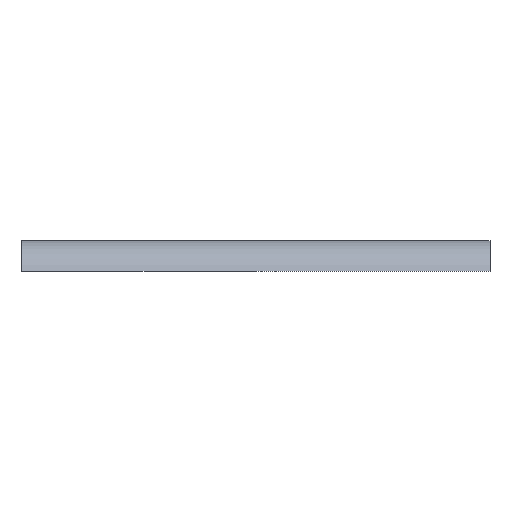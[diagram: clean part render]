
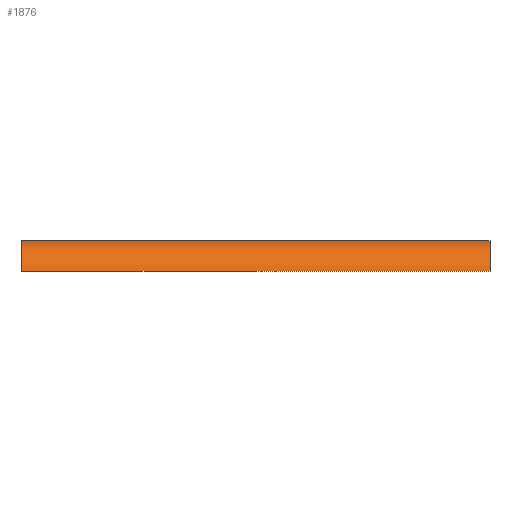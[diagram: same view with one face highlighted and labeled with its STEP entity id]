
A CAD part, front view. The second image highlights one B-rep face of the part: STEP entity #1876.
In plain terms, the highlighted cylindrical face has radius 4 mm (diameter 8 mm), a partial arc.
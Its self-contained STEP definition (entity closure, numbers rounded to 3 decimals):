
#22 = VERTEX_POINT('',#23);
#23 = CARTESIAN_POINT('',(-23.,-63.,12.5));
#32 = PLANE('',#33);
#33 = AXIS2_PLACEMENT_3D('',#34,#35,#36);
#34 = CARTESIAN_POINT('',(-43.,-67.,12.5));
#35 = DIRECTION('',(0.,0.,1.));
#36 = DIRECTION('',(1.,0.,-0.));
#43 = PLANE('',#44);
#44 = AXIS2_PLACEMENT_3D('',#45,#46,#47);
#45 = CARTESIAN_POINT('',(-23.,-68.,9.5));
#46 = DIRECTION('',(1.,0.,0.));
#47 = DIRECTION('',(0.,0.,1.));
#54 = EDGE_CURVE('',#55,#22,#57,.T.);
#55 = VERTEX_POINT('',#56);
#56 = CARTESIAN_POINT('',(23.,-63.,12.5));
#57 = SURFACE_CURVE('',#58,(#62,#69),.PCURVE_S1.);
#58 = LINE('',#59,#60);
#59 = CARTESIAN_POINT('',(25.,-63.,12.5));
#60 = VECTOR('',#61,1.);
#61 = DIRECTION('',(-1.,-0.,-0.));
#62 = PCURVE('',#32,#63);
#63 = DEFINITIONAL_REPRESENTATION('',(#64),#68);
#64 = LINE('',#65,#66);
#65 = CARTESIAN_POINT('',(68.,4.));
#66 = VECTOR('',#67,1.);
#67 = DIRECTION('',(-1.,0.));
#68 = ( GEOMETRIC_REPRESENTATION_CONTEXT(2) 
PARAMETRIC_REPRESENTATION_CONTEXT() REPRESENTATION_CONTEXT('2D SPACE',''
  ) );
#69 = PCURVE('',#70,#75);
#70 = CYLINDRICAL_SURFACE('',#71,4.);
#71 = AXIS2_PLACEMENT_3D('',#72,#73,#74);
#72 = CARTESIAN_POINT('',(25.,-63.,8.5));
#73 = DIRECTION('',(-1.,-0.,-0.));
#74 = DIRECTION('',(0.,-1.,0.));
#75 = DEFINITIONAL_REPRESENTATION('',(#76),#80);
#76 = LINE('',#77,#78);
#77 = CARTESIAN_POINT('',(1.571,0.));
#78 = VECTOR('',#79,1.);
#79 = DIRECTION('',(0.,1.));
#80 = ( GEOMETRIC_REPRESENTATION_CONTEXT(2) 
PARAMETRIC_REPRESENTATION_CONTEXT() REPRESENTATION_CONTEXT('2D SPACE',''
  ) );
#97 = PLANE('',#98);
#98 = AXIS2_PLACEMENT_3D('',#99,#100,#101);
#99 = CARTESIAN_POINT('',(23.,-68.,9.5));
#100 = DIRECTION('',(1.,0.,0.));
#101 = DIRECTION('',(0.,0.,1.));
#1349 = EDGE_CURVE('',#1350,#22,#1352,.T.);
#1350 = VERTEX_POINT('',#1351);
#1351 = CARTESIAN_POINT('',(-23.,-66.873,9.5));
#1352 = SURFACE_CURVE('',#1353,(#1358,#1369),.PCURVE_S1.);
#1353 = CIRCLE('',#1354,4.);
#1354 = AXIS2_PLACEMENT_3D('',#1355,#1356,#1357);
#1355 = CARTESIAN_POINT('',(-23.,-63.,8.5));
#1356 = DIRECTION('',(-1.,-0.,0.));
#1357 = DIRECTION('',(0.,-1.,0.));
#1358 = PCURVE('',#43,#1359);
#1359 = DEFINITIONAL_REPRESENTATION('',(#1360),#1368);
#1360 = ( BOUNDED_CURVE() B_SPLINE_CURVE(2,(#1361,#1362,#1363,#1364,
#1365,#1366,#1367),.UNSPECIFIED.,.T.,.F.) B_SPLINE_CURVE_WITH_KNOTS((1,2
    ,2,2,2,1),(-2.094,0.,2.094,4.189,
6.283,8.378),.UNSPECIFIED.) CURVE() 
GEOMETRIC_REPRESENTATION_ITEM() RATIONAL_B_SPLINE_CURVE((1.,0.5,1.,0.5,
1.,0.5,1.)) REPRESENTATION_ITEM('') );
#1361 = CARTESIAN_POINT('',(-1.,-1.));
#1362 = CARTESIAN_POINT('',(5.928,-1.));
#1363 = CARTESIAN_POINT('',(2.464,-7.));
#1364 = CARTESIAN_POINT('',(-1.,-13.));
#1365 = CARTESIAN_POINT('',(-4.464,-7.));
#1366 = CARTESIAN_POINT('',(-7.928,-1.));
#1367 = CARTESIAN_POINT('',(-1.,-1.));
#1368 = ( GEOMETRIC_REPRESENTATION_CONTEXT(2) 
PARAMETRIC_REPRESENTATION_CONTEXT() REPRESENTATION_CONTEXT('2D SPACE',''
  ) );
#1369 = PCURVE('',#70,#1370);
#1370 = DEFINITIONAL_REPRESENTATION('',(#1371),#1375);
#1371 = LINE('',#1372,#1373);
#1372 = CARTESIAN_POINT('',(0.,48.));
#1373 = VECTOR('',#1374,1.);
#1374 = DIRECTION('',(1.,0.));
#1375 = ( GEOMETRIC_REPRESENTATION_CONTEXT(2) 
PARAMETRIC_REPRESENTATION_CONTEXT() REPRESENTATION_CONTEXT('2D SPACE',''
  ) );
#1393 = PLANE('',#1394);
#1394 = AXIS2_PLACEMENT_3D('',#1395,#1396,#1397);
#1395 = CARTESIAN_POINT('',(-23.,-68.,9.5));
#1396 = DIRECTION('',(0.,0.,1.));
#1397 = DIRECTION('',(1.,0.,0.));
#1876 = ADVANCED_FACE('',(#1877),#70,.T.);
#1877 = FACE_BOUND('',#1878,.T.);
#1878 = EDGE_LOOP('',(#1879,#1907,#1908,#1909));
#1879 = ORIENTED_EDGE('',*,*,#1880,.T.);
#1880 = EDGE_CURVE('',#1881,#55,#1883,.T.);
#1881 = VERTEX_POINT('',#1882);
#1882 = CARTESIAN_POINT('',(23.,-66.873,9.5));
#1883 = SURFACE_CURVE('',#1884,(#1889,#1896),.PCURVE_S1.);
#1884 = CIRCLE('',#1885,4.);
#1885 = AXIS2_PLACEMENT_3D('',#1886,#1887,#1888);
#1886 = CARTESIAN_POINT('',(23.,-63.,8.5));
#1887 = DIRECTION('',(-1.,-0.,0.));
#1888 = DIRECTION('',(0.,-1.,0.));
#1889 = PCURVE('',#70,#1890);
#1890 = DEFINITIONAL_REPRESENTATION('',(#1891),#1895);
#1891 = LINE('',#1892,#1893);
#1892 = CARTESIAN_POINT('',(0.,2.));
#1893 = VECTOR('',#1894,1.);
#1894 = DIRECTION('',(1.,0.));
#1895 = ( GEOMETRIC_REPRESENTATION_CONTEXT(2) 
PARAMETRIC_REPRESENTATION_CONTEXT() REPRESENTATION_CONTEXT('2D SPACE',''
  ) );
#1896 = PCURVE('',#97,#1897);
#1897 = DEFINITIONAL_REPRESENTATION('',(#1898),#1906);
#1898 = ( BOUNDED_CURVE() B_SPLINE_CURVE(2,(#1899,#1900,#1901,#1902,
#1903,#1904,#1905),.UNSPECIFIED.,.T.,.F.) B_SPLINE_CURVE_WITH_KNOTS((1,2
    ,2,2,2,1),(-2.094,0.,2.094,4.189,
6.283,8.378),.UNSPECIFIED.) CURVE() 
GEOMETRIC_REPRESENTATION_ITEM() RATIONAL_B_SPLINE_CURVE((1.,0.5,1.,0.5,
1.,0.5,1.)) REPRESENTATION_ITEM('') );
#1899 = CARTESIAN_POINT('',(-1.,-1.));
#1900 = CARTESIAN_POINT('',(5.928,-1.));
#1901 = CARTESIAN_POINT('',(2.464,-7.));
#1902 = CARTESIAN_POINT('',(-1.,-13.));
#1903 = CARTESIAN_POINT('',(-4.464,-7.));
#1904 = CARTESIAN_POINT('',(-7.928,-1.));
#1905 = CARTESIAN_POINT('',(-1.,-1.));
#1906 = ( GEOMETRIC_REPRESENTATION_CONTEXT(2) 
PARAMETRIC_REPRESENTATION_CONTEXT() REPRESENTATION_CONTEXT('2D SPACE',''
  ) );
#1907 = ORIENTED_EDGE('',*,*,#54,.T.);
#1908 = ORIENTED_EDGE('',*,*,#1349,.F.);
#1909 = ORIENTED_EDGE('',*,*,#1910,.F.);
#1910 = EDGE_CURVE('',#1881,#1350,#1911,.T.);
#1911 = SURFACE_CURVE('',#1912,(#1916,#1922),.PCURVE_S1.);
#1912 = LINE('',#1913,#1914);
#1913 = CARTESIAN_POINT('',(25.,-66.873,9.5));
#1914 = VECTOR('',#1915,1.);
#1915 = DIRECTION('',(-1.,-0.,-0.));
#1916 = PCURVE('',#70,#1917);
#1917 = DEFINITIONAL_REPRESENTATION('',(#1918),#1921);
#1918 = B_SPLINE_CURVE_WITH_KNOTS('',1,(#1919,#1920),.UNSPECIFIED.,.F.,
  .F.,(2,2),(0.,50.),.PIECEWISE_BEZIER_KNOTS.);
#1919 = CARTESIAN_POINT('',(0.253,0.));
#1920 = CARTESIAN_POINT('',(0.253,50.));
#1921 = ( GEOMETRIC_REPRESENTATION_CONTEXT(2) 
PARAMETRIC_REPRESENTATION_CONTEXT() REPRESENTATION_CONTEXT('2D SPACE',''
  ) );
#1922 = PCURVE('',#1393,#1923);
#1923 = DEFINITIONAL_REPRESENTATION('',(#1924),#1927);
#1924 = B_SPLINE_CURVE_WITH_KNOTS('',1,(#1925,#1926),.UNSPECIFIED.,.F.,
  .F.,(2,2),(0.,50.),.PIECEWISE_BEZIER_KNOTS.);
#1925 = CARTESIAN_POINT('',(48.,1.127));
#1926 = CARTESIAN_POINT('',(-2.,1.127));
#1927 = ( GEOMETRIC_REPRESENTATION_CONTEXT(2) 
PARAMETRIC_REPRESENTATION_CONTEXT() REPRESENTATION_CONTEXT('2D SPACE',''
  ) );
